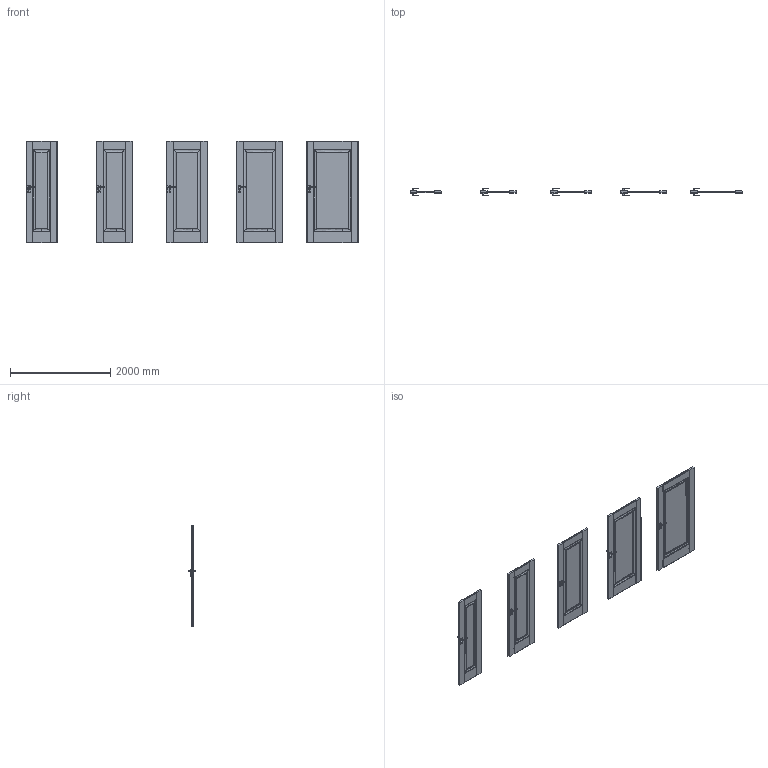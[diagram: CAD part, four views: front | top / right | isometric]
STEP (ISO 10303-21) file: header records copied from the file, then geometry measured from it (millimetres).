
FILE_DESCRIPTION(/* description */ (''),/* implementation_level */ '2;1');
FILE_NAME(/* name */ '049810_A_2-Skrzydło Inspire model A_ polska norma _PN__ bezprzylgowe..stp',/* time_stamp */ '2024-08-21T15:14:02+02:00',/* author */ (''),/* organization */ (''),/* preprocessor_version */ 'ST-DEVELOPER v16',/* originating_system */ 'SIEMENS PLM Software NX 11.0',/* authorisation */ '');
FILE_SCHEMA (('AUTOMOTIVE_DESIGN { 1 0 10303 214 3 1 1 1 }'));
Products named in the file (1): bkni2BD4327Fk4zq
Bounding box: 6618 x 153.13 x 2017.01 mm (x, y, z)
Volume: 240610337.2 mm3; surface area: 20343118.5 mm2
Topology: 25 solids, 35 shells, 1950 faces, 4955 edges, 2980 vertices
Faces by surface type: plane 1090, cylinder 410, bspline 310, sphere 140
Entity records: 64947 total; most frequent: CARTESIAN_POINT 20230, ORIENTED_EDGE 9630, DIRECTION 8647, EDGE_CURVE 4815, LINE 3225, VECTOR 3225, VERTEX_POINT 2980, AXIS2_PLACEMENT_3D 2711
